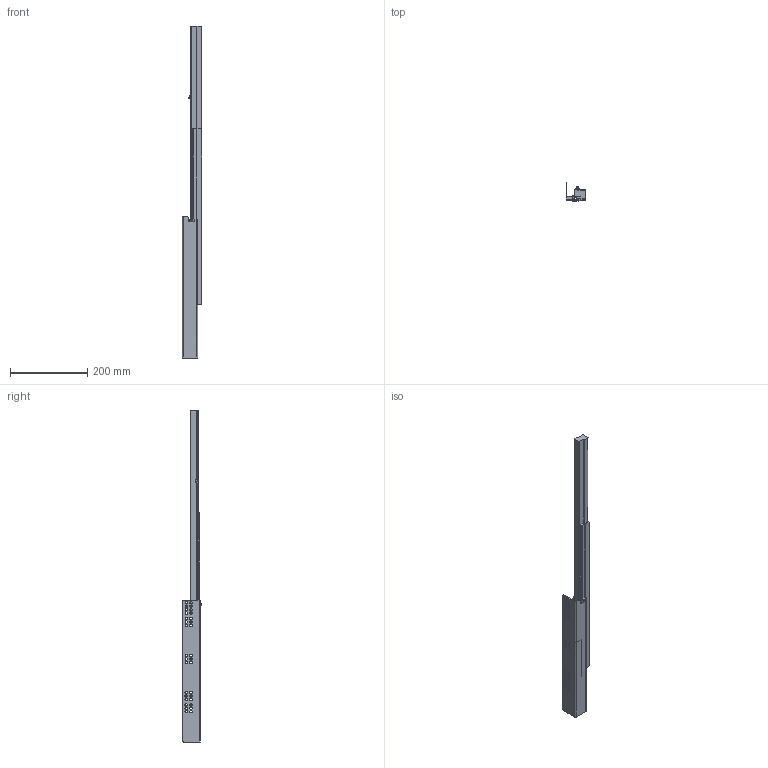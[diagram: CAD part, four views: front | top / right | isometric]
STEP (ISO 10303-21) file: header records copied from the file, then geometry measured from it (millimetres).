
FILE_DESCRIPTION (( 'STEP AP203' ), '1' );
FILE_NAME ('TS10550H-L-DTC3D-open.STEP', '2021-07-09T05:34:09', ( 'df' ), ( 'Microsoft' ), 'SwSTEP 2.0', 'SolidWorks 2018', '' );
FILE_SCHEMA (( 'CONFIG_CONTROL_DESIGN' ));
Length unit declared in the file: millimetre
Products named in the file (1): TS10550H-L-DTC3D-open
Bounding box: 51.73 x 48 x 861.8 mm (x, y, z)
Volume: 506585.3 mm3; surface area: 136836.6 mm2
Topology: 1 solids, 1 shells, 307 faces, 855 edges, 560 vertices
Faces by surface type: plane 121, cylinder 119, bspline 47, torus 16, sphere 4
Entity records: 11682 total; most frequent: CARTESIAN_POINT 3709, ORIENTED_EDGE 1702, DIRECTION 1541, EDGE_CURVE 851, VERTEX_POINT 560, AXIS2_PLACEMENT_3D 534, VECTOR 473, LINE 473
